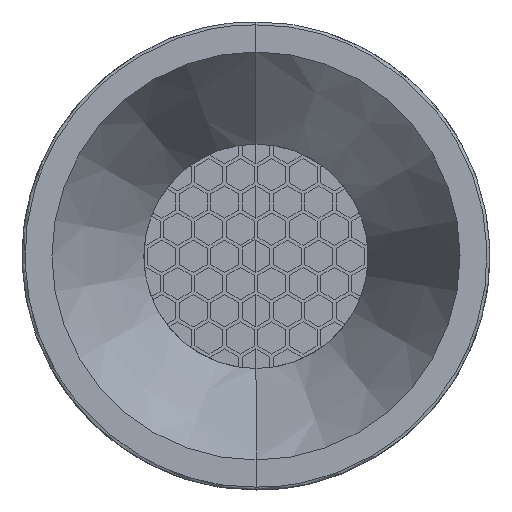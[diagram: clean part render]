
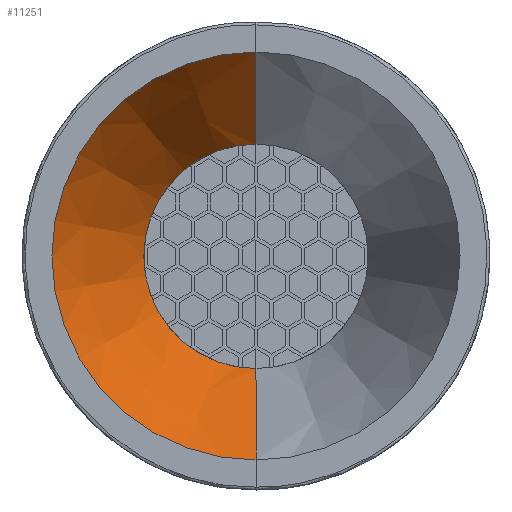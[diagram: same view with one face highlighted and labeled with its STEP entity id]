
A CAD part, top view. The second image highlights one B-rep face of the part: STEP entity #11251.
In plain terms, the highlighted conical face has half-angle 24.335 degrees and reference radius 34.111 mm.
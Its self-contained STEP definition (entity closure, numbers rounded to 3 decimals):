
#235=CONICAL_SURFACE('',#12025,34.11,0.425);
#1290=FACE_OUTER_BOUND('',#1926,.T.);
#1926=EDGE_LOOP('',(#10413,#10414,#10415,#10416));
#3207=LINE('',#19056,#4507);
#3208=LINE('',#19058,#4508);
#4507=VECTOR('',#14791,304.8);
#4508=VECTOR('',#14792,304.8);
#4745=CIRCLE('',#12012,19.654);
#4753=CIRCLE('',#12026,35.756);
#5782=VERTEX_POINT('',#19027);
#5783=VERTEX_POINT('',#19028);
#5790=VERTEX_POINT('',#19055);
#5791=VERTEX_POINT('',#19057);
#7395=EDGE_CURVE('',#5782,#5783,#4745,.T.);
#7409=EDGE_CURVE('',#5782,#5790,#3207,.T.);
#7410=EDGE_CURVE('',#5791,#5783,#3208,.T.);
#7411=EDGE_CURVE('',#5790,#5791,#4753,.T.);
#10413=ORIENTED_EDGE('',*,*,#7409,.F.);
#10414=ORIENTED_EDGE('',*,*,#7395,.T.);
#10415=ORIENTED_EDGE('',*,*,#7410,.F.);
#10416=ORIENTED_EDGE('',*,*,#7411,.F.);
#11251=ADVANCED_FACE('',(#1290),#235,.F.);
#12012=AXIS2_PLACEMENT_3D('',#19029,#14757,#14758);
#12025=AXIS2_PLACEMENT_3D('',#19054,#14789,#14790);
#12026=AXIS2_PLACEMENT_3D('',#19059,#14793,#14794);
#14757=DIRECTION('center_axis',(0.,0.,-1.));
#14758=DIRECTION('ref_axis',(0.,-1.,0.));
#14789=DIRECTION('center_axis',(0.,0.,
1.));
#14790=DIRECTION('ref_axis',(1.,0.,0.));
#14791=DIRECTION('',(0.,0.412,0.911));
#14792=DIRECTION('',(0.,0.412,-0.911));
#14793=DIRECTION('center_axis',(0.,0.,-1.));
#14794=DIRECTION('ref_axis',(-0.588,-0.809,0.));
#19027=CARTESIAN_POINT('',(0.,19.654,-35.917));
#19028=CARTESIAN_POINT('',(0.,-19.654,-35.917));
#19029=CARTESIAN_POINT('Origin',(0.,0.,-35.917));
#19054=CARTESIAN_POINT('Origin',(0.,0.,-3.952));
#19055=CARTESIAN_POINT('',(0.,35.756,-0.312));
#19056=CARTESIAN_POINT('',(0.,19.654,-35.917));
#19057=CARTESIAN_POINT('',(0.,-35.756,-0.312));
#19058=CARTESIAN_POINT('',(0.,-35.756,-0.312));
#19059=CARTESIAN_POINT('Origin',(0.,0.,
-0.312));
